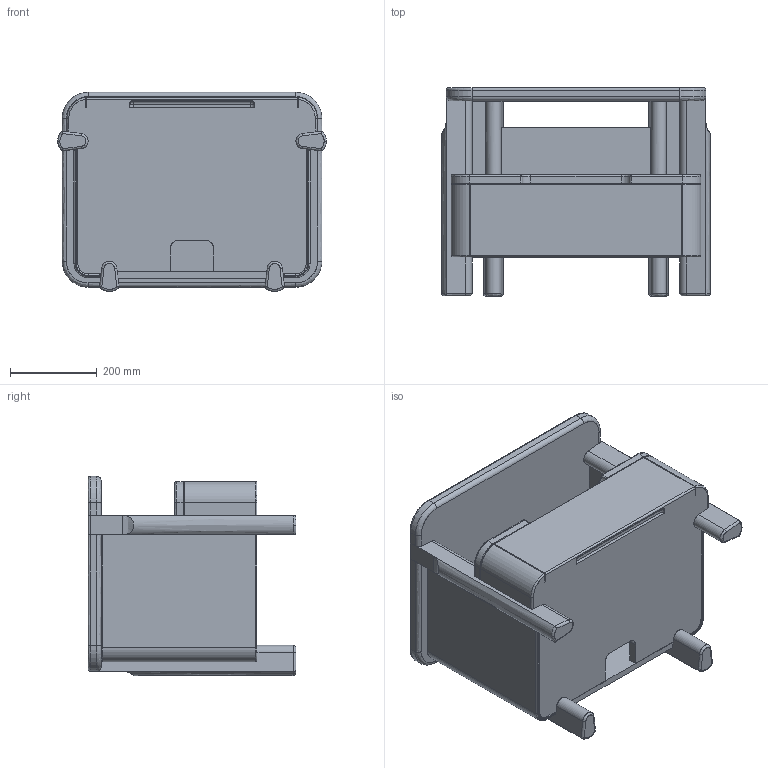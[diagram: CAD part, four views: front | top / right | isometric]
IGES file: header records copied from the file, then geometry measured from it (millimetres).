
Start section: SolidWorks IGES file using analytic representation for surfaces
Global section: file name: C:\Users\Utilizador\Desktop\Sales Files\685\685 Twenty-Five Bedside table_va_prmt.IGS; native system: SolidWorks 2016; preprocessor: SolidWorks 2016; author: Utilizador; date: 221024.090412; units: millimetre
Bounding box: 620 x 480 x 460 mm (x, y, z)
Surface area: 3264020.9 mm2 (no closed solid volume)
Topology: 0 solids, 0 shells, 383 faces, 4578 edges, 4558 vertices
Faces by surface type: bspline 215, revolution 168
